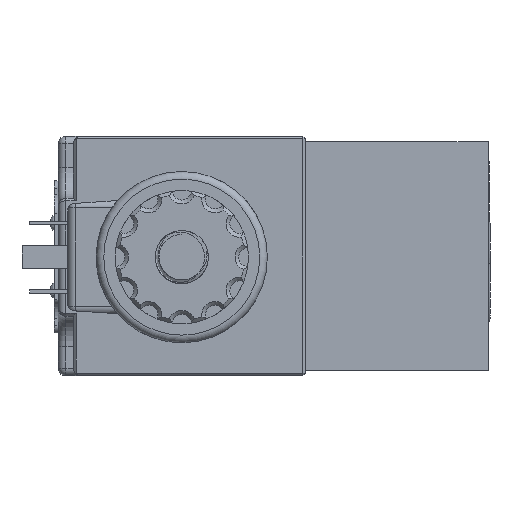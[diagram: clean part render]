
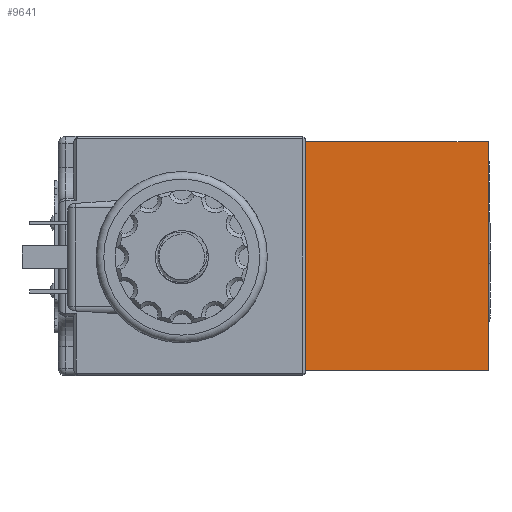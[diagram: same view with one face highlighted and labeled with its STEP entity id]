
A CAD part, left-side view. The second image highlights one B-rep face of the part: STEP entity #9641.
In plain terms, the highlighted planar face has unit normal (-1, 0, 0).
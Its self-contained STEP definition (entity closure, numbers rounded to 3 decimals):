
#1072=FACE_OUTER_BOUND('',#3184,.T.);
#1344=PLANE('',#11737);
#1784=LINE('',#22103,#2343);
#1786=LINE('',#22107,#2345);
#1787=LINE('',#22109,#2346);
#1788=LINE('',#22111,#2347);
#2343=VECTOR('',#13753,1.);
#2345=VECTOR('',#13757,1.);
#2346=VECTOR('',#13758,1.);
#2347=VECTOR('',#13759,1.);
#3184=EDGE_LOOP('',(#5206,#5207,#5208,#5209));
#5206=ORIENTED_EDGE('',*,*,#6982,.T.);
#5207=ORIENTED_EDGE('',*,*,#6983,.F.);
#5208=ORIENTED_EDGE('',*,*,#6984,.F.);
#5209=ORIENTED_EDGE('',*,*,#6980,.T.);
#6980=EDGE_CURVE('',#10813,#10812,#1784,.T.);
#6982=EDGE_CURVE('',#10812,#10814,#1786,.T.);
#6983=EDGE_CURVE('',#10815,#10814,#1787,.T.);
#6984=EDGE_CURVE('',#10813,#10815,#1788,.T.);
#9641=ADVANCED_FACE('',(#1072),#1344,.F.);
#10812=VERTEX_POINT('',#22102);
#10813=VERTEX_POINT('',#22104);
#10814=VERTEX_POINT('',#22108);
#10815=VERTEX_POINT('',#22110);
#11737=AXIS2_PLACEMENT_3D('',#22112,#13760,#13761);
#13753=DIRECTION('',(0.,1.,0.));
#13757=DIRECTION('',(0.,0.,-1.));
#13758=DIRECTION('',(0.,1.,0.));
#13759=DIRECTION('',(0.,0.,-1.));
#13760=DIRECTION('',(1.,0.,0.));
#13761=DIRECTION('',(0.,0.,1.));
#22102=CARTESIAN_POINT('',(493.606,158.418,30.3));
#22103=CARTESIAN_POINT('',(493.606,110.418,30.3));
#22104=CARTESIAN_POINT('',(493.606,110.418,30.3));
#22107=CARTESIAN_POINT('',(493.606,158.418,30.3));
#22108=CARTESIAN_POINT('',(493.606,158.418,-29.7));
#22109=CARTESIAN_POINT('',(493.606,110.418,-29.7));
#22110=CARTESIAN_POINT('',(493.606,110.418,-29.7));
#22111=CARTESIAN_POINT('',(493.606,110.418,30.3));
#22112=CARTESIAN_POINT('',(493.606,110.418,30.3));
